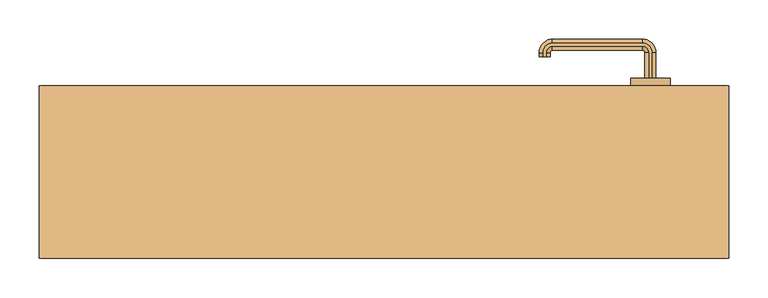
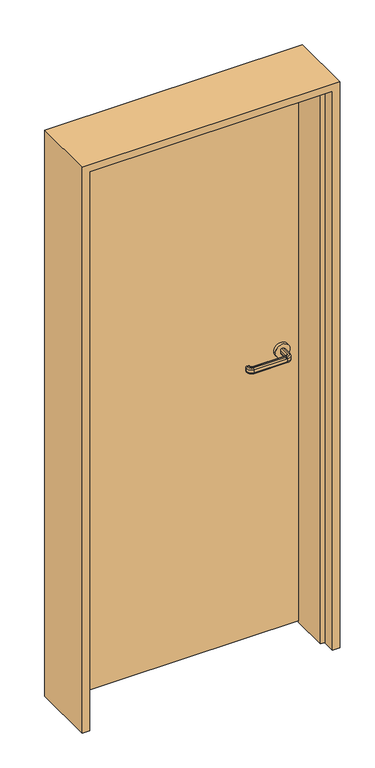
"""IFC4 building model written with IfcOpenShell, lengths in millimetres: door geometry, A1 片開 フラッシュ_A1枠 : SD11_H2000W800."""

from ifc_helpers import new_model, si_unit, point, frame, frame_2d, origin, place, context, project, spatial, polyline, circle_curve, ellipse_curve, trimmed, segment, composite_curve, outline, extrude, faceted_brep, source, transform, mapped, element, save
from ifc_brep_helpers import plane_surface, cylinder_surface, revolved_surface, advanced_brep


def door_e94faea5(model_context):
    return source(origin(), model_context, "Body", "SolidModel", [
        advanced_brep(
        [(342.0, 120.0, 1015.0), (338.0, 120.0, 1015.0), (333.0, 120.0, 1010.0), (333.0, 120.0, 1000.0477623), (338.0, 120.0, 995.0477623), (342.0, 120.0, 995.0477623), (347.0, 120.0, 1000.0477623), (347.0, 120.0, 1010.0), (347.0, 152.5, 1010.0), (342.0, 152.5, 1015.0), (347.0, 152.5, 1000.0477623), (342.0, 152.5, 995.0477623), (338.0, 152.5, 995.0477623), (330.0, 160.5, 995.0477623), (215.0, 160.5, 995.0477623), (207.0, 152.5, 995.0477623), (207.0, 147.5, 995.0477623), (203.0, 147.5, 995.0477623), (203.0, 152.5, 995.0477623), (215.0, 164.5, 995.0477623), (330.0, 164.5, 995.0477623), (333.0, 152.5, 1000.0477623), (333.0, 152.5, 1010.0), (338.0, 152.5, 1015.0), (330.0, 164.5, 1015.0), (215.0, 164.5, 1015.0), (203.0, 152.5, 1015.0), (203.0, 147.5, 1015.0), (207.0, 147.5, 1015.0), (207.0, 152.5, 1015.0), (215.0, 160.5, 1015.0), (330.0, 160.5, 1015.0), (330.0, 169.5, 1010.0), (330.0, 169.5, 1000.0477623), (330.0, 155.5, 1000.0477623), (330.0, 155.5, 1010.0), (215.0, 169.5, 1010.0), (215.0, 169.5, 1000.0477623), (215.0, 155.5, 1000.0477623), (215.0, 155.5, 1010.0), (198.0, 152.5, 1010.0), (198.0, 152.5, 1000.0477623), (212.0, 152.5, 1000.0477623), (212.0, 152.5, 1010.0), (198.0, 147.5, 1010.0), (198.0, 147.5, 1000.0477623), (212.0, 147.5, 1000.0477623), (212.0, 147.5, 1010.0)],
        [
            (0, 1),
            (1, 2, circle_curve(frame((338.0, 120.0, 1010.0), z_axis=(0.0, -1.0, 0.0), x_axis=(1.0, 0.0, 0.0)), 5.0)),
            (2, 3),
            (3, 4, circle_curve(frame((338.0, 120.0, 1000.0477623), z_axis=(0.0, -1.0, 0.0), x_axis=(1.0, 0.0, 0.0)), 5.0)),
            (4, 5),
            (5, 6, circle_curve(frame((342.0, 120.0, 1000.0477623), z_axis=(0.0, -1.0, 0.0), x_axis=(1.0, 0.0, 0.0)), 5.0)),
            (6, 7),
            (7, 0, circle_curve(frame((342.0, 120.0, 1010.0), z_axis=(0.0, -1.0, 0.0), x_axis=(1.0, 0.0, 0.0)), 5.0)),
            (7, 8),
            (8, 9, circle_curve(frame((342.0, 152.5, 1010.0), z_axis=(0.0, -1.0, 0.0), x_axis=(1.0, 0.0, 0.0)), 5.0)),
            (9, 0),
            (6, 10),
            (10, 8),
            (5, 11),
            (11, 10, circle_curve(frame((342.0, 152.5, 1000.0477623), z_axis=(0.0, -1.0, 0.0), x_axis=(1.0, 0.0, 0.0)), 5.0)),
            (4, 12),
            (12, 13, circle_curve(frame((330.0, 152.5, 995.0477623), z_axis=(0.0, 0.0, 1.0), x_axis=(1.0, 0.0, 0.0)), 8.0)),
            (13, 14),
            (14, 15, circle_curve(frame((215.0, 152.5, 995.0477623), z_axis=(0.0, 0.0, 1.0), x_axis=(0.0, 1.0, 0.0)), 8.0)),
            (15, 16),
            (16, 17),
            (17, 18),
            (18, 19, circle_curve(frame((215.0, 152.5, 995.0477623), z_axis=(0.0, 0.0, -1.0), x_axis=(0.0, 1.0, 0.0)), 12.0)),
            (19, 20),
            (20, 11, circle_curve(frame((330.0, 152.5, 995.0477623), z_axis=(0.0, 0.0, -1.0), x_axis=(1.0, 0.0, 0.0)), 12.0)),
            (3, 21),
            (21, 12, circle_curve(frame((338.0, 152.5, 1000.0477623), z_axis=(0.0, -1.0, 0.0), x_axis=(1.0, 0.0, 0.0)), 5.0)),
            (2, 22),
            (22, 21),
            (1, 23),
            (23, 22, circle_curve(frame((338.0, 152.5, 1010.0), z_axis=(0.0, -1.0, 0.0), x_axis=(1.0, 0.0, 0.0)), 5.0)),
            (9, 24, circle_curve(frame((330.0, 152.5, 1015.0), z_axis=(0.0, 0.0, 1.0), x_axis=(1.0, 0.0, 0.0)), 12.0)),
            (24, 25),
            (25, 26, circle_curve(frame((215.0, 152.5, 1015.0), z_axis=(0.0, 0.0, 1.0), x_axis=(0.0, 1.0, 0.0)), 12.0)),
            (26, 27),
            (27, 28),
            (28, 29),
            (29, 30, circle_curve(frame((215.0, 152.5, 1015.0), z_axis=(0.0, 0.0, -1.0), x_axis=(0.0, 1.0, 0.0)), 8.0)),
            (30, 31),
            (31, 23, circle_curve(frame((330.0, 152.5, 1015.0), z_axis=(0.0, 0.0, -1.0), x_axis=(1.0, 0.0, 0.0)), 8.0)),
            (32, 24, circle_curve(frame((330.0, 164.5, 1010.0), z_axis=(1.0, 0.0, 0.0), x_axis=(0.0, 1.0, 0.0)), 5.0)),
            (8, 32, circle_curve(frame((330.0, 152.5, 1010.0), z_axis=(0.0, 0.0, 1.0), x_axis=(1.0, 0.0, 0.0)), 17.0)),
            (33, 32),
            (10, 33, circle_curve(frame((330.0, 152.5, 1000.0477623), z_axis=(0.0, 0.0, 1.0), x_axis=(1.0, 0.0, 0.0)), 17.0)),
            (20, 33, circle_curve(frame((330.0, 164.5, 1000.0477623), z_axis=(1.0, 0.0, 0.0), x_axis=(0.0, 1.0, 0.0)), 5.0)),
            (34, 13, circle_curve(frame((330.0, 160.5, 1000.0477623), z_axis=(1.0, 0.0, 0.0), x_axis=(0.0, 1.0, 0.0)), 5.0)),
            (21, 34, circle_curve(frame((330.0, 152.5, 1000.0477623), z_axis=(0.0, 0.0, 1.0), x_axis=(1.0, 0.0, 0.0)), 3.0)),
            (35, 34),
            (22, 35, circle_curve(frame((330.0, 152.5, 1010.0), z_axis=(0.0, 0.0, 1.0), x_axis=(1.0, 0.0, 0.0)), 3.0)),
            (31, 35, circle_curve(frame((330.0, 160.5, 1010.0), z_axis=(1.0, 0.0, 0.0), x_axis=(0.0, 1.0, 0.0)), 5.0)),
            (32, 36),
            (36, 25, circle_curve(frame((215.0, 164.5, 1010.0), z_axis=(1.0, 0.0, 0.0), x_axis=(0.0, 1.0, 0.0)), 5.0)),
            (33, 37),
            (37, 36),
            (19, 37, circle_curve(frame((215.0, 164.5, 1000.0477623), z_axis=(1.0, 0.0, 0.0), x_axis=(0.0, 1.0, 0.0)), 5.0)),
            (34, 38),
            (38, 14, circle_curve(frame((215.0, 160.5, 1000.0477623), z_axis=(1.0, 0.0, 0.0), x_axis=(0.0, 1.0, 0.0)), 5.0)),
            (35, 39),
            (39, 38),
            (30, 39, circle_curve(frame((215.0, 160.5, 1010.0), z_axis=(1.0, 0.0, 0.0), x_axis=(0.0, 1.0, 0.0)), 5.0)),
            (40, 26, circle_curve(frame((203.0, 152.5, 1010.0), z_axis=(0.0, 1.0, 0.0), x_axis=(-1.0, 0.0, 0.0)), 5.0)),
            (36, 40, circle_curve(frame((215.0, 152.5, 1010.0), z_axis=(0.0, 0.0, 1.0), x_axis=(0.0, 1.0, 0.0)), 17.0)),
            (41, 40),
            (37, 41, circle_curve(frame((215.0, 152.5, 1000.0477623), z_axis=(0.0, 0.0, 1.0), x_axis=(0.0, 1.0, 0.0)), 17.0)),
            (18, 41, circle_curve(frame((203.0, 152.5, 1000.0477623), z_axis=(0.0, 1.0, 0.0), x_axis=(-1.0, 0.0, 0.0)), 5.0)),
            (42, 15, circle_curve(frame((207.0, 152.5, 1000.0477623), z_axis=(0.0, 1.0, 0.0), x_axis=(-1.0, 0.0, 0.0)), 5.0)),
            (38, 42, circle_curve(frame((215.0, 152.5, 1000.0477623), z_axis=(0.0, 0.0, 1.0), x_axis=(0.0, 1.0, 0.0)), 3.0)),
            (43, 42),
            (39, 43, circle_curve(frame((215.0, 152.5, 1010.0), z_axis=(0.0, 0.0, 1.0), x_axis=(0.0, 1.0, 0.0)), 3.0)),
            (29, 43, circle_curve(frame((207.0, 152.5, 1010.0), z_axis=(0.0, 1.0, 0.0), x_axis=(-1.0, 0.0, 0.0)), 5.0)),
            (27, 44, circle_curve(frame((203.0, 147.5, 1010.0), z_axis=(0.0, -1.0, 0.0), x_axis=(-1.0, 0.0, 0.0)), 5.0)),
            (44, 45),
            (45, 17, circle_curve(frame((203.0, 147.5, 1000.0477623), z_axis=(0.0, -1.0, 0.0), x_axis=(-1.0, 0.0, 0.0)), 5.0)),
            (16, 46, circle_curve(frame((207.0, 147.5, 1000.0477623), z_axis=(0.0, -1.0, 0.0), x_axis=(-1.0, 0.0, 0.0)), 5.0)),
            (46, 47),
            (47, 28, circle_curve(frame((207.0, 147.5, 1010.0), z_axis=(0.0, -1.0, 0.0), x_axis=(-1.0, 0.0, 0.0)), 5.0)),
            (40, 44),
            (41, 45),
            (42, 46),
            (43, 47),
        ],
        [
            plane_surface(frame((350.198039, 120.0, 1005.0), z_axis=(0.0, -1.0, 0.0), x_axis=(0.0, 0.0, 1.0))),
            cylinder_surface(frame((342.0, 120.0, 1010.0), z_axis=(0.0, -1.0, 0.0), x_axis=(1.0, 0.0, 0.0)), 5.0),
            plane_surface(frame((347.0, 120.0, 1010.0), z_axis=(1.0, 0.0, 0.0), x_axis=(0.0, 1.0, 0.0))),
            cylinder_surface(frame((342.0, 120.0, 1000.0477623), z_axis=(0.0, -1.0, 0.0), x_axis=(1.0, 0.0, 0.0)), 5.0),
            plane_surface(frame((342.0, 120.0, 995.0477623), z_axis=(0.0, 0.0, -1.0), x_axis=(0.0, 1.0, 0.0))),
            cylinder_surface(frame((338.0, 120.0, 1000.0477623), z_axis=(0.0, -1.0, 0.0), x_axis=(1.0, 0.0, 0.0)), 5.0),
            plane_surface(frame((333.0, 120.0, 1000.0477623), z_axis=(-1.0, 0.0, 0.0), x_axis=(0.0, 1.0, 0.0))),
            cylinder_surface(frame((338.0, 120.0, 1010.0), z_axis=(0.0, -1.0, 0.0), x_axis=(1.0, 0.0, 0.0)), 5.0),
            plane_surface(frame((338.0, 120.0, 1015.0), z_axis=(0.0, 0.0, 1.0), x_axis=(0.0, 1.0, 0.0))),
            revolved_surface(trimmed(ellipse_curve(frame((342.0, 152.5, 1010.0), z_axis=(0.0, 1.0, 0.0), x_axis=(1.0, 0.0, 0.0)), 5.0, 5.0), [point((342.0, 152.5, 1015.0))], [point((347.0, 152.5, 1010.0))], True, "CARTESIAN"), (330.0, 152.5, 1005.0), (0.0, 0.0, -1.0)),
            cylinder_surface(frame((330.0, 152.5, 1005.0), z_axis=(0.0, 0.0, -1.0), x_axis=(1.0, 0.0, 0.0)), 17.0),
            revolved_surface(trimmed(ellipse_curve(frame((342.0, 152.5, 1000.0477623), z_axis=(0.0, 1.0, 0.0), x_axis=(1.0, 0.0, 0.0)), 5.0, 5.0), [point((347.0, 152.5, 1000.0477623))], [point((342.0, 152.5, 995.0477623))], True, "CARTESIAN"), (330.0, 152.5, 1005.0), (0.0, 0.0, -1.0)),
            revolved_surface(trimmed(ellipse_curve(frame((338.0, 152.5, 1000.0477623), z_axis=(0.0, 1.0, 0.0), x_axis=(1.0, 0.0, 0.0)), 5.0, 5.0), [point((338.0, 152.5, 995.0477623))], [point((333.0, 152.5, 1000.0477623))], True, "CARTESIAN"), (330.0, 152.5, 1005.0), (0.0, 0.0, -1.0)),
            revolved_surface(polyline([(333.0, 152.5, 1000.0477623), (333.0, 152.5, 1010.0)]), (330.0, 152.5, 1005.0), (0.0, 0.0, -1.0)),
            revolved_surface(trimmed(ellipse_curve(frame((338.0, 152.5, 1010.0), z_axis=(0.0, 1.0, 0.0), x_axis=(1.0, 0.0, 0.0)), 5.0, 5.0), [point((333.0, 152.5, 1010.0))], [point((338.0, 152.5, 1015.0))], True, "CARTESIAN"), (330.0, 152.5, 1005.0), (0.0, 0.0, -1.0)),
            cylinder_surface(frame((330.0, 164.5, 1010.0), z_axis=(1.0, 0.0, 0.0), x_axis=(0.0, 1.0, 0.0)), 5.0),
            plane_surface(frame((330.0, 169.5, 1010.0), z_axis=(0.0, 1.0, 0.0), x_axis=(-1.0, 0.0, 0.0))),
            cylinder_surface(frame((330.0, 164.5, 1000.0477623), z_axis=(1.0, 0.0, 0.0), x_axis=(0.0, 1.0, 0.0)), 5.0),
            cylinder_surface(frame((330.0, 160.5, 1000.0477623), z_axis=(1.0, 0.0, 0.0), x_axis=(0.0, 1.0, 0.0)), 5.0),
            plane_surface(frame((330.0, 155.5, 1000.0477623), z_axis=(0.0, -1.0, 0.0), x_axis=(-1.0, 0.0, 0.0))),
            cylinder_surface(frame((330.0, 160.5, 1010.0), z_axis=(1.0, 0.0, 0.0), x_axis=(0.0, 1.0, 0.0)), 5.0),
            revolved_surface(trimmed(ellipse_curve(frame((215.0, 164.5, 1010.0), z_axis=(-1.0, 0.0, 0.0), x_axis=(0.0, 1.0, 0.0)), 5.0, 5.0), [point((215.0, 164.5, 1015.0))], [point((215.0, 169.5, 1010.0))], True, "CARTESIAN"), (215.0, 152.5, 1005.0), (0.0, 0.0, -1.0)),
            cylinder_surface(frame((215.0, 152.5, 1005.0), z_axis=(0.0, 0.0, -1.0), x_axis=(0.0, 1.0, 0.0)), 17.0),
            revolved_surface(trimmed(ellipse_curve(frame((215.0, 164.5, 1000.0477623), z_axis=(-1.0, 0.0, 0.0), x_axis=(0.0, 1.0, 0.0)), 5.0, 5.0), [point((215.0, 169.5, 1000.0477623))], [point((215.0, 164.5, 995.0477623))], True, "CARTESIAN"), (215.0, 152.5, 1005.0), (0.0, 0.0, -1.0)),
            revolved_surface(trimmed(ellipse_curve(frame((215.0, 160.5, 1000.0477623), z_axis=(-1.0, 0.0, 0.0), x_axis=(0.0, 1.0, 0.0)), 5.0, 5.0), [point((215.0, 160.5, 995.0477623))], [point((215.0, 155.5, 1000.0477623))], True, "CARTESIAN"), (215.0, 152.5, 1005.0), (0.0, 0.0, -1.0)),
            revolved_surface(polyline([(215.0, 155.5, 1000.0477623), (215.0, 155.5, 1010.0)]), (215.0, 152.5, 1005.0), (0.0, 0.0, -1.0)),
            revolved_surface(trimmed(ellipse_curve(frame((215.0, 160.5, 1010.0), z_axis=(-1.0, 0.0, 0.0), x_axis=(0.0, 1.0, 0.0)), 5.0, 5.0), [point((215.0, 155.5, 1010.0))], [point((215.0, 160.5, 1015.0))], True, "CARTESIAN"), (215.0, 152.5, 1005.0), (0.0, 0.0, -1.0)),
            plane_surface(frame((215.198039, 147.5, 1005.0), z_axis=(0.0, -1.0, 0.0), x_axis=(0.0, 0.0, -1.0))),
            cylinder_surface(frame((203.0, 152.5, 1010.0), z_axis=(0.0, 1.0, 0.0), x_axis=(-1.0, 0.0, 0.0)), 5.0),
            plane_surface(frame((198.0, 152.5, 1010.0), z_axis=(-1.0, 0.0, 0.0), x_axis=(0.0, -1.0, 0.0))),
            cylinder_surface(frame((203.0, 152.5, 1000.0477623), z_axis=(0.0, 1.0, 0.0), x_axis=(-1.0, 0.0, 0.0)), 5.0),
            cylinder_surface(frame((207.0, 152.5, 1000.0477623), z_axis=(0.0, 1.0, 0.0), x_axis=(-1.0, 0.0, 0.0)), 5.0),
            plane_surface(frame((212.0, 152.5, 1000.0477623), z_axis=(1.0, 0.0, 0.0), x_axis=(0.0, -1.0, 0.0))),
            cylinder_surface(frame((207.0, 152.5, 1010.0), z_axis=(0.0, 1.0, 0.0), x_axis=(-1.0, 0.0, 0.0)), 5.0),
        ],
        [
            (0, [[1, 2, 3, 4, 5, 6, 7, 8]]),
            (1, [[9, 10, 11, -8]]),
            (2, [[12, 13, -9, -7]]),
            (3, [[14, 15, -12, -6]]),
            (4, [[16, 17, 18, 19, 20, 21, 22, 23, 24, 25, -14, -5]]),
            (5, [[26, 27, -16, -4]]),
            (6, [[28, 29, -26, -3]]),
            (7, [[30, 31, -28, -2]]),
            (8, [[-11, 32, 33, 34, 35, 36, 37, 38, 39, 40, -30, -1]]),
            (9, [[41, -32, -10, 42]]),
            (10, [[43, -42, -13, 44]]),
            (11, [[45, -44, -15, -25]]),
            (12, [[46, -17, -27, 47]]),
            (13, [[48, -47, -29, 49]]),
            (14, [[50, -49, -31, -40]]),
            (15, [[51, 52, -33, -41]]),
            (16, [[53, 54, -51, -43]]),
            (17, [[-24, 55, -53, -45]]),
            (18, [[56, 57, -18, -46]]),
            (19, [[58, 59, -56, -48]]),
            (20, [[-39, 60, -58, -50]]),
            (21, [[61, -34, -52, 62]]),
            (22, [[63, -62, -54, 64]]),
            (23, [[65, -64, -55, -23]]),
            (24, [[66, -19, -57, 67]]),
            (25, [[68, -67, -59, 69]]),
            (26, [[70, -69, -60, -38]]),
            (27, [[71, 72, 73, -21, 74, 75, 76, -36]]),
            (28, [[77, -71, -35, -61]]),
            (29, [[78, -72, -77, -63]]),
            (30, [[-22, -73, -78, -65]]),
            (31, [[79, -74, -20, -66]]),
            (32, [[80, -75, -79, -68]]),
            (33, [[-37, -76, -80, -70]]),
        ],
    ),
        advanced_brep(
        [(338.0, 55.0, 995.0), (333.0, 55.0, 1000.0), (333.0, 55.0, 1010.0), (338.0, 55.0, 1015.0), (342.0, 55.0, 1015.0), (347.0, 55.0, 1010.0), (347.0, 55.0, 1000.0), (342.0, 55.0, 995.0), (342.0, 22.5, 995.0), (330.0, 10.5, 995.0), (215.0, 10.5, 995.0), (203.0, 22.5, 995.0), (203.0, 27.5, 995.0), (207.0, 27.5, 995.0), (207.0, 22.5, 995.0), (215.0, 14.5, 995.0), (330.0, 14.5, 995.0), (338.0, 22.5, 995.0), (347.0, 22.5, 1000.0), (347.0, 22.5, 1010.0), (342.0, 22.5, 1015.0), (338.0, 22.5, 1015.0), (330.0, 14.5, 1015.0), (215.0, 14.5, 1015.0), (207.0, 22.5, 1015.0), (207.0, 27.5, 1015.0), (203.0, 27.5, 1015.0), (203.0, 22.5, 1015.0), (215.0, 10.5, 1015.0), (330.0, 10.5, 1015.0), (333.0, 22.5, 1010.0), (333.0, 22.5, 1000.0), (330.0, 5.5, 1000.0), (330.0, 5.5, 1010.0), (330.0, 19.5, 1010.0), (330.0, 19.5, 1000.0), (215.0, 5.5, 1000.0), (215.0, 5.5, 1010.0), (215.0, 19.5, 1010.0), (215.0, 19.5, 1000.0), (198.0, 22.5, 1000.0), (198.0, 22.5, 1010.0), (212.0, 22.5, 1010.0), (212.0, 22.5, 1000.0), (198.0, 27.5, 1000.0), (198.0, 27.5, 1010.0), (212.0, 27.5, 1010.0), (212.0, 27.5, 1000.0)],
        [
            (0, 1, circle_curve(frame((338.0, 55.0, 1000.0), z_axis=(0.0, 1.0, 0.0), x_axis=(-1.0, 0.0, 0.0)), 5.0)),
            (1, 2),
            (2, 3, circle_curve(frame((338.0, 55.0, 1010.0), z_axis=(0.0, 1.0, 0.0), x_axis=(-1.0, 0.0, 0.0)), 5.0)),
            (3, 4),
            (4, 5, circle_curve(frame((342.0, 55.0, 1010.0), z_axis=(0.0, 1.0, 0.0), x_axis=(-1.0, 0.0, 0.0)), 5.0)),
            (5, 6),
            (6, 7, circle_curve(frame((342.0, 55.0, 1000.0), z_axis=(0.0, 1.0, 0.0), x_axis=(-1.0, 0.0, 0.0)), 5.0)),
            (7, 0),
            (7, 8),
            (8, 9, circle_curve(frame((330.0, 22.5, 995.0), z_axis=(0.0, 0.0, -1.0), x_axis=(1.0, 0.0, 0.0)), 12.0)),
            (9, 10),
            (10, 11, circle_curve(frame((215.0, 22.5, 995.0), z_axis=(0.0, 0.0, -1.0), x_axis=(0.0, -1.0, 0.0)), 12.0)),
            (11, 12),
            (12, 13),
            (13, 14),
            (14, 15, circle_curve(frame((215.0, 22.5, 995.0), z_axis=(0.0, 0.0, 1.0), x_axis=(0.0, -1.0, 0.0)), 8.0)),
            (15, 16),
            (16, 17, circle_curve(frame((330.0, 22.5, 995.0), z_axis=(0.0, 0.0, 1.0), x_axis=(1.0, 0.0, 0.0)), 8.0)),
            (17, 0),
            (6, 18),
            (18, 8, circle_curve(frame((342.0, 22.5, 1000.0), z_axis=(0.0, 1.0, 0.0), x_axis=(-1.0, 0.0, 0.0)), 5.0)),
            (5, 19),
            (19, 18),
            (4, 20),
            (20, 19, circle_curve(frame((342.0, 22.5, 1010.0), z_axis=(0.0, 1.0, 0.0), x_axis=(-1.0, 0.0, 0.0)), 5.0)),
            (3, 21),
            (21, 22, circle_curve(frame((330.0, 22.5, 1015.0), z_axis=(0.0, 0.0, -1.0), x_axis=(1.0, 0.0, 0.0)), 8.0)),
            (22, 23),
            (23, 24, circle_curve(frame((215.0, 22.5, 1015.0), z_axis=(0.0, 0.0, -1.0), x_axis=(0.0, -1.0, 0.0)), 8.0)),
            (24, 25),
            (25, 26),
            (26, 27),
            (27, 28, circle_curve(frame((215.0, 22.5, 1015.0), z_axis=(0.0, 0.0, 1.0), x_axis=(0.0, -1.0, 0.0)), 12.0)),
            (28, 29),
            (29, 20, circle_curve(frame((330.0, 22.5, 1015.0), z_axis=(0.0, 0.0, 1.0), x_axis=(1.0, 0.0, 0.0)), 12.0)),
            (2, 30),
            (30, 21, circle_curve(frame((338.0, 22.5, 1010.0), z_axis=(0.0, 1.0, 0.0), x_axis=(-1.0, 0.0, 0.0)), 5.0)),
            (1, 31),
            (31, 30),
            (17, 31, circle_curve(frame((338.0, 22.5, 1000.0), z_axis=(0.0, 1.0, 0.0), x_axis=(-1.0, 0.0, 0.0)), 5.0)),
            (32, 9, circle_curve(frame((330.0, 10.5, 1000.0), z_axis=(1.0, 0.0, 0.0), x_axis=(0.0, 1.0, 0.0)), 5.0)),
            (18, 32, circle_curve(frame((330.0, 22.5, 1000.0), z_axis=(0.0, 0.0, -1.0), x_axis=(1.0, 0.0, 0.0)), 17.0)),
            (33, 32),
            (19, 33, circle_curve(frame((330.0, 22.5, 1010.0), z_axis=(0.0, 0.0, -1.0), x_axis=(1.0, 0.0, 0.0)), 17.0)),
            (29, 33, circle_curve(frame((330.0, 10.5, 1010.0), z_axis=(1.0, 0.0, 0.0), x_axis=(0.0, 1.0, 0.0)), 5.0)),
            (34, 22, circle_curve(frame((330.0, 14.5, 1010.0), z_axis=(1.0, 0.0, 0.0), x_axis=(0.0, 1.0, 0.0)), 5.0)),
            (30, 34, circle_curve(frame((330.0, 22.5, 1010.0), z_axis=(0.0, 0.0, -1.0), x_axis=(1.0, 0.0, 0.0)), 3.0)),
            (35, 34),
            (31, 35, circle_curve(frame((330.0, 22.5, 1000.0), z_axis=(0.0, 0.0, -1.0), x_axis=(1.0, 0.0, 0.0)), 3.0)),
            (16, 35, circle_curve(frame((330.0, 14.5, 1000.0), z_axis=(1.0, 0.0, 0.0), x_axis=(0.0, 1.0, 0.0)), 5.0)),
            (32, 36),
            (36, 10, circle_curve(frame((215.0, 10.5, 1000.0), z_axis=(1.0, 0.0, 0.0), x_axis=(0.0, 1.0, 0.0)), 5.0)),
            (33, 37),
            (37, 36),
            (28, 37, circle_curve(frame((215.0, 10.5, 1010.0), z_axis=(1.0, 0.0, 0.0), x_axis=(0.0, 1.0, 0.0)), 5.0)),
            (34, 38),
            (38, 23, circle_curve(frame((215.0, 14.5, 1010.0), z_axis=(1.0, 0.0, 0.0), x_axis=(0.0, 1.0, 0.0)), 5.0)),
            (35, 39),
            (39, 38),
            (15, 39, circle_curve(frame((215.0, 14.5, 1000.0), z_axis=(1.0, 0.0, 0.0), x_axis=(0.0, 1.0, 0.0)), 5.0)),
            (40, 11, circle_curve(frame((203.0, 22.5, 1000.0), z_axis=(0.0, -1.0, 0.0), x_axis=(1.0, 0.0, 0.0)), 5.0)),
            (36, 40, circle_curve(frame((215.0, 22.5, 1000.0), z_axis=(0.0, 0.0, -1.0), x_axis=(0.0, -1.0, 0.0)), 17.0)),
            (41, 40),
            (37, 41, circle_curve(frame((215.0, 22.5, 1010.0), z_axis=(0.0, 0.0, -1.0), x_axis=(0.0, -1.0, 0.0)), 17.0)),
            (27, 41, circle_curve(frame((203.0, 22.5, 1010.0), z_axis=(0.0, -1.0, 0.0), x_axis=(1.0, 0.0, 0.0)), 5.0)),
            (42, 24, circle_curve(frame((207.0, 22.5, 1010.0), z_axis=(0.0, -1.0, 0.0), x_axis=(1.0, 0.0, 0.0)), 5.0)),
            (38, 42, circle_curve(frame((215.0, 22.5, 1010.0), z_axis=(0.0, 0.0, -1.0), x_axis=(0.0, -1.0, 0.0)), 3.0)),
            (43, 42),
            (39, 43, circle_curve(frame((215.0, 22.5, 1000.0), z_axis=(0.0, 0.0, -1.0), x_axis=(0.0, -1.0, 0.0)), 3.0)),
            (14, 43, circle_curve(frame((207.0, 22.5, 1000.0), z_axis=(0.0, -1.0, 0.0), x_axis=(1.0, 0.0, 0.0)), 5.0)),
            (12, 44, circle_curve(frame((203.0, 27.5, 1000.0), z_axis=(0.0, 1.0, 0.0), x_axis=(1.0, 0.0, 0.0)), 5.0)),
            (44, 45),
            (45, 26, circle_curve(frame((203.0, 27.5, 1010.0), z_axis=(0.0, 1.0, 0.0), x_axis=(1.0, 0.0, 0.0)), 5.0)),
            (25, 46, circle_curve(frame((207.0, 27.5, 1010.0), z_axis=(0.0, 1.0, 0.0), x_axis=(1.0, 0.0, 0.0)), 5.0)),
            (46, 47),
            (47, 13, circle_curve(frame((207.0, 27.5, 1000.0), z_axis=(0.0, 1.0, 0.0), x_axis=(1.0, 0.0, 0.0)), 5.0)),
            (40, 44),
            (41, 45),
            (42, 46),
            (43, 47),
        ],
        [
            plane_surface(frame((350.198039, 55.0, 1005.0), z_axis=(0.0, 1.0, 0.0), x_axis=(0.0, 0.0, -1.0))),
            plane_surface(frame((338.0, 55.0, 995.0), z_axis=(0.0, 0.0, -1.0), x_axis=(0.0, -1.0, 0.0))),
            cylinder_surface(frame((342.0, 55.0, 1000.0), z_axis=(0.0, 1.0, 0.0), x_axis=(-1.0, 0.0, 0.0)), 5.0),
            plane_surface(frame((347.0, 55.0, 1000.0), z_axis=(1.0, 0.0, 0.0), x_axis=(0.0, -1.0, 0.0))),
            cylinder_surface(frame((342.0, 55.0, 1010.0), z_axis=(0.0, 1.0, 0.0), x_axis=(-1.0, 0.0, 0.0)), 5.0),
            plane_surface(frame((342.0, 55.0, 1015.0), z_axis=(0.0, 0.0, 1.0), x_axis=(0.0, -1.0, 0.0))),
            cylinder_surface(frame((338.0, 55.0, 1010.0), z_axis=(0.0, 1.0, 0.0), x_axis=(-1.0, 0.0, 0.0)), 5.0),
            plane_surface(frame((333.0, 55.0, 1010.0), z_axis=(-1.0, 0.0, 0.0), x_axis=(0.0, -1.0, 0.0))),
            cylinder_surface(frame((338.0, 55.0, 1000.0), z_axis=(0.0, 1.0, 0.0), x_axis=(-1.0, 0.0, 0.0)), 5.0),
            revolved_surface(trimmed(ellipse_curve(frame((342.0, 22.5, 1000.0), z_axis=(0.0, -1.0, 0.0), x_axis=(-1.0, 0.0, 0.0)), 5.0, 5.0), [point((342.0, 22.5, 995.0))], [point((347.0, 22.5, 1000.0))], True, "CARTESIAN"), (330.0, 22.5, 1005.0), (0.0, 0.0, 1.0)),
            cylinder_surface(frame((330.0, 22.5, 1005.0), z_axis=(0.0, 0.0, 1.0), x_axis=(1.0, 0.0, 0.0)), 17.0),
            revolved_surface(trimmed(ellipse_curve(frame((342.0, 22.5, 1010.0), z_axis=(0.0, -1.0, 0.0), x_axis=(-1.0, 0.0, 0.0)), 5.0, 5.0), [point((347.0, 22.5, 1010.0))], [point((342.0, 22.5, 1015.0))], True, "CARTESIAN"), (330.0, 22.5, 1005.0), (0.0, 0.0, 1.0)),
            revolved_surface(trimmed(ellipse_curve(frame((338.0, 22.5, 1010.0), z_axis=(0.0, -1.0, 0.0), x_axis=(-1.0, 0.0, 0.0)), 5.0, 5.0), [point((338.0, 22.5, 1015.0))], [point((333.0, 22.5, 1010.0))], True, "CARTESIAN"), (330.0, 22.5, 1005.0), (0.0, 0.0, 1.0)),
            revolved_surface(polyline([(333.0, 22.5, 1010.0), (333.0, 22.5, 1000.0)]), (330.0, 22.5, 1005.0), (0.0, 0.0, 1.0)),
            revolved_surface(trimmed(ellipse_curve(frame((338.0, 22.5, 1000.0), z_axis=(0.0, -1.0, 0.0), x_axis=(-1.0, 0.0, 0.0)), 5.0, 5.0), [point((333.0, 22.5, 1000.0))], [point((338.0, 22.5, 995.0))], True, "CARTESIAN"), (330.0, 22.5, 1005.0), (0.0, 0.0, 1.0)),
            cylinder_surface(frame((330.0, 10.5, 1000.0), z_axis=(1.0, 0.0, 0.0), x_axis=(0.0, 1.0, 0.0)), 5.0),
            plane_surface(frame((330.0, 5.5, 1000.0), z_axis=(0.0, -1.0, 0.0), x_axis=(-1.0, 0.0, 0.0))),
            cylinder_surface(frame((330.0, 10.5, 1010.0), z_axis=(1.0, 0.0, 0.0), x_axis=(0.0, 1.0, 0.0)), 5.0),
            cylinder_surface(frame((330.0, 14.5, 1010.0), z_axis=(1.0, 0.0, 0.0), x_axis=(0.0, 1.0, 0.0)), 5.0),
            plane_surface(frame((330.0, 19.5, 1010.0), z_axis=(0.0, 1.0, 0.0), x_axis=(-1.0, 0.0, 0.0))),
            cylinder_surface(frame((330.0, 14.5, 1000.0), z_axis=(1.0, 0.0, 0.0), x_axis=(0.0, 1.0, 0.0)), 5.0),
            revolved_surface(trimmed(ellipse_curve(frame((215.0, 10.5, 1000.0), z_axis=(-1.0, 0.0, 0.0), x_axis=(0.0, 1.0, 0.0)), 5.0, 5.0), [point((215.0, 10.5, 995.0))], [point((215.0, 5.5, 1000.0))], True, "CARTESIAN"), (215.0, 22.5, 1005.0), (0.0, 0.0, 1.0)),
            cylinder_surface(frame((215.0, 22.5, 1005.0), z_axis=(0.0, 0.0, 1.0), x_axis=(0.0, -1.0, 0.0)), 17.0),
            revolved_surface(trimmed(ellipse_curve(frame((215.0, 10.5, 1010.0), z_axis=(-1.0, 0.0, 0.0), x_axis=(0.0, 1.0, 0.0)), 5.0, 5.0), [point((215.0, 5.5, 1010.0))], [point((215.0, 10.5, 1015.0))], True, "CARTESIAN"), (215.0, 22.5, 1005.0), (0.0, 0.0, 1.0)),
            revolved_surface(trimmed(ellipse_curve(frame((215.0, 14.5, 1010.0), z_axis=(-1.0, 0.0, 0.0), x_axis=(0.0, 1.0, 0.0)), 5.0, 5.0), [point((215.0, 14.5, 1015.0))], [point((215.0, 19.5, 1010.0))], True, "CARTESIAN"), (215.0, 22.5, 1005.0), (0.0, 0.0, 1.0)),
            revolved_surface(polyline([(215.0, 19.5, 1010.0), (215.0, 19.5, 1000.0)]), (215.0, 22.5, 1005.0), (0.0, 0.0, 1.0)),
            revolved_surface(trimmed(ellipse_curve(frame((215.0, 14.5, 1000.0), z_axis=(-1.0, 0.0, 0.0), x_axis=(0.0, 1.0, 0.0)), 5.0, 5.0), [point((215.0, 19.5, 1000.0))], [point((215.0, 14.5, 995.0))], True, "CARTESIAN"), (215.0, 22.5, 1005.0), (0.0, 0.0, 1.0)),
            plane_surface(frame((215.198039, 27.5, 1005.0), z_axis=(0.0, 1.0, 0.0), x_axis=(0.0, 0.0, 1.0))),
            cylinder_surface(frame((203.0, 22.5, 1000.0), z_axis=(0.0, -1.0, 0.0), x_axis=(1.0, 0.0, 0.0)), 5.0),
            plane_surface(frame((198.0, 22.5, 1000.0), z_axis=(-1.0, 0.0, 0.0), x_axis=(0.0, 1.0, 0.0))),
            cylinder_surface(frame((203.0, 22.5, 1010.0), z_axis=(0.0, -1.0, 0.0), x_axis=(1.0, 0.0, 0.0)), 5.0),
            cylinder_surface(frame((207.0, 22.5, 1010.0), z_axis=(0.0, -1.0, 0.0), x_axis=(1.0, 0.0, 0.0)), 5.0),
            plane_surface(frame((212.0, 22.5, 1010.0), z_axis=(1.0, 0.0, 0.0), x_axis=(0.0, 1.0, 0.0))),
            cylinder_surface(frame((207.0, 22.5, 1000.0), z_axis=(0.0, -1.0, 0.0), x_axis=(1.0, 0.0, 0.0)), 5.0),
        ],
        [
            (0, [[1, 2, 3, 4, 5, 6, 7, 8]]),
            (1, [[9, 10, 11, 12, 13, 14, 15, 16, 17, 18, 19, -8]]),
            (2, [[20, 21, -9, -7]]),
            (3, [[22, 23, -20, -6]]),
            (4, [[24, 25, -22, -5]]),
            (5, [[26, 27, 28, 29, 30, 31, 32, 33, 34, 35, -24, -4]]),
            (6, [[36, 37, -26, -3]]),
            (7, [[38, 39, -36, -2]]),
            (8, [[-19, 40, -38, -1]]),
            (9, [[41, -10, -21, 42]]),
            (10, [[43, -42, -23, 44]]),
            (11, [[45, -44, -25, -35]]),
            (12, [[46, -27, -37, 47]]),
            (13, [[48, -47, -39, 49]]),
            (14, [[50, -49, -40, -18]]),
            (15, [[51, 52, -11, -41]]),
            (16, [[53, 54, -51, -43]]),
            (17, [[-34, 55, -53, -45]]),
            (18, [[56, 57, -28, -46]]),
            (19, [[58, 59, -56, -48]]),
            (20, [[-17, 60, -58, -50]]),
            (21, [[61, -12, -52, 62]]),
            (22, [[63, -62, -54, 64]]),
            (23, [[65, -64, -55, -33]]),
            (24, [[66, -29, -57, 67]]),
            (25, [[68, -67, -59, 69]]),
            (26, [[70, -69, -60, -16]]),
            (27, [[-14, 71, 72, 73, -31, 74, 75, 76]]),
            (28, [[77, -71, -13, -61]]),
            (29, [[78, -72, -77, -63]]),
            (30, [[-32, -73, -78, -65]]),
            (31, [[79, -74, -30, -66]]),
            (32, [[80, -75, -79, -68]]),
            (33, [[-15, -76, -80, -70]]),
        ],
    ),
        extrude(outline(composite_curve([segment(trimmed(circle_curve(frame_2d((1005.0, 340.0)), 25.0), [point((1005.0, 365.0))], [point((1005.0, 315.0))], False, "CARTESIAN"), True, "CONTINUOUS"), segment(trimmed(circle_curve(frame_2d((1005.0, 340.0)), 25.0), [point((1005.0, 315.0))], [point((1005.0, 365.0))], False, "CARTESIAN"), True, "CONTINUOUS")], self_intersect=False)), frame((0.0, 110.0, 0.0), z_axis=(0.0, 1.0, 0.0), x_axis=(0.0, 0.0, 1.0)), (0.0, 0.0, 1.0), 10.0),
        extrude(outline(composite_curve([segment(trimmed(circle_curve(frame_2d((1005.0, 340.0)), 25.0), [point((1005.0, 365.0))], [point((1005.0, 315.0))], False, "CARTESIAN"), True, "CONTINUOUS"), segment(trimmed(circle_curve(frame_2d((1005.0, 340.0)), 25.0), [point((1005.0, 315.0))], [point((1005.0, 365.0))], False, "CARTESIAN"), True, "CONTINUOUS")], self_intersect=False)), frame((0.0, 55.0, 0.0), z_axis=(0.0, 1.0, 0.0), x_axis=(0.0, 0.0, 1.0)), (0.0, 0.0, 1.0), 10.0),
        extrude(outline(polyline([(-415.0, 65.0), (-415.0, 110.0), (415.0, 110.0), (415.0, 65.0), (-415.0, 65.0)])), frame((0.0, 0.0, 5.0), z_axis=(0.0, 0.0, 1.0), x_axis=(1.0, 0.0, 0.0)), (0.0, 0.0, 1.0), 2010.0),
        faceted_brep([(-440.0, 110.0, 0.0), (-415.0, 110.0, 0.0), (-415.0, 65.0, 0.0), (-400.0, 65.0, 0.0), (-400.0, -65.0, 0.0), (-415.0, -65.0, 0.0), (-415.0, -110.0, 0.0), (-440.0, -110.0, 0.0), (-440.0, 110.0, 2040.0), (440.0, 110.0, 2040.0), (440.0, 110.0, 0.0), (415.0, 110.0, 0.0), (415.0, 110.0, 2015.0), (-415.0, 110.0, 2015.0), (-415.0, 65.0, 2015.0), (415.0, 65.0, 2015.0), (415.0, 65.0, 0.0), (400.0, 65.0, 0.0), (400.0, 65.0, 2000.0), (-400.0, 65.0, 2000.0), (-400.0, -65.0, 2000.0), (400.0, -65.0, 2000.0), (400.0, -65.0, 0.0), (415.0, -65.0, 0.0), (415.0, -65.0, 2015.0), (-415.0, -65.0, 2015.0), (-415.0, -110.0, 2015.0), (415.0, -110.0, 2015.0), (415.0, -110.0, 0.0), (440.0, -110.0, 0.0), (440.0, -110.0, 2040.0), (-440.0, -110.0, 2040.0)], [[[0, 1, 2, 3, 4, 5, 6, 7]], [[1, 0, 8, 9, 10, 11, 12, 13]], [[2, 1, 13, 14]], [[3, 2, 14, 15, 16, 17, 18, 19]], [[4, 3, 19, 20]], [[5, 4, 20, 21, 22, 23, 24, 25]], [[6, 5, 25, 26]], [[7, 6, 26, 27, 28, 29, 30, 31]], [[0, 7, 31, 8]], [[14, 13, 12, 15]], [[20, 19, 18, 21]], [[26, 25, 24, 27]], [[8, 31, 30, 9]], [[10, 29, 28, 23, 22, 17, 16, 11]], [[15, 12, 11, 16]], [[21, 18, 17, 22]], [[27, 24, 23, 28]], [[9, 30, 29, 10]]]),
    ])


if __name__ == "__main__":
    model = new_model("IFC4")
    model_context = context("Model", 3, world=origin())
    ifc_project = project(units=[si_unit("LENGTHUNIT", "METRE", prefix="MILLI")], contexts=[model_context])
    site = spatial("IfcSite", under=ifc_project)
    building = spatial("IfcBuilding", under=site)
    placement = place(None, origin())
    door_shape = door_e94faea5(model_context)
    element("IfcDoor", 1, ObjectType="A1 片開 フラッシュ_A1枠 : SD11_H2000W800", at=placement, inside=building, context=model_context, shape_type="MappedRepresentation", body=[
        mapped(door_shape, transform((0.0, 0.0, 0.0), x_axis=(1.0, 0.0, 0.0), y_axis=(0.0, 1.0, 0.0), z_axis=(0.0, 0.0, 1.0))),
    ])
    save(model, "model.ifc")
